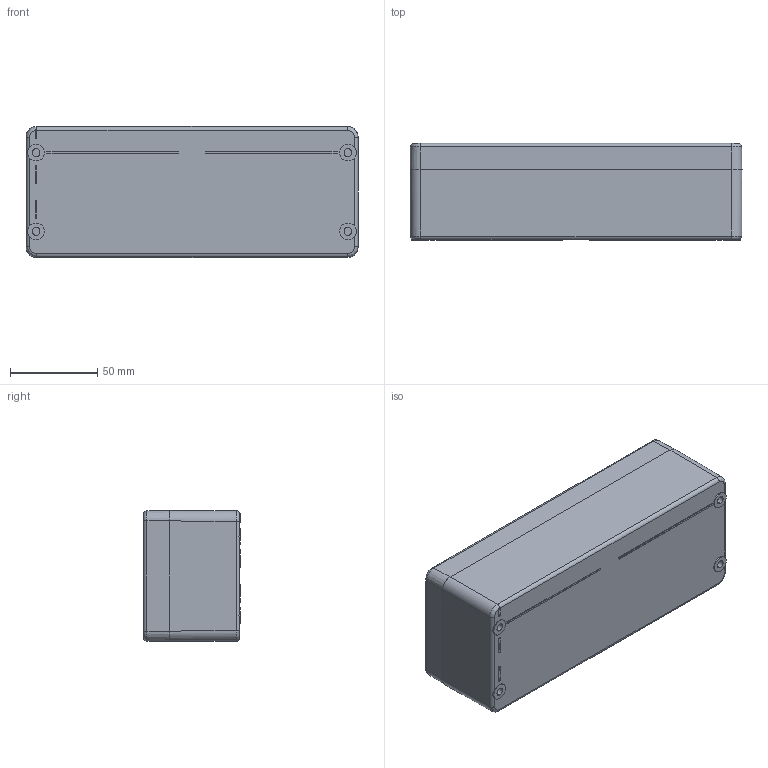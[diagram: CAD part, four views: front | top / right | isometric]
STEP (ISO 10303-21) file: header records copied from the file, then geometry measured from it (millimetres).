
FILE_DESCRIPTION((''),'2;1');
FILE_NAME('5194000000_ASM','2023-12-14T07:36:39',('silke.otte'),(''),'CREO PARAMETRIC BY PTC INC, 2022124','CREO PARAMETRIC BY PTC INC, 2022124','');
FILE_SCHEMA(('AUTOMOTIVE_DESIGN { 1 0 10303 214 1 1 1 1 }'));
Length unit declared in the file: millimetre
Products named in the file (14): 9331004000; EINPRESSMUTTER_M4; EINPRESSMUTTER_M4_AF8; EINPRESSMUTTER_M4_AF9; EINPRESSMUTTER_M4_AF10; EINPRESSMUTTER_M4_AF11; 9341004000_ASM; 9342004000; CP-DICHTUNG_35; 9614004800_ASM; 9262004000; 9261014000; 9258857000; 5194000000_ASM
Assembly tree (21 placements, depth 3):
  5194000000_ASM
    9341004000_ASM
      9331004000
      EINPRESSMUTTER_M4  x2
      EINPRESSMUTTER_M4_AF8
      EINPRESSMUTTER_M4_AF9
      EINPRESSMUTTER_M4_AF10
      EINPRESSMUTTER_M4_AF11
    9614004800_ASM
      9342004000
      CP-DICHTUNG_35
    9262004000  x4
    9261014000  x4
    9258857000  x2
Bounding box: 190 x 55.5 x 75 mm (x, y, z)
Volume: 234657.8 mm3; surface area: 127544.1 mm2
Topology: 19 solids, 29 shells, 713 faces, 3985 edges, 5456 vertices
Faces by surface type: plane 303, cone 184, cylinder 178, bspline 24, torus 24
Entity records: 32817 total; most frequent: CARTESIAN_POINT 7352, DIRECTION 3880, ORIENTED_EDGE 2382, AXIS2_PLACEMENT_3D 1348, EDGE_CURVE 1202, PRESENTATION_STYLE_ASSIGNMENT 1163, STYLED_ITEM 1152, VECTOR 1141
